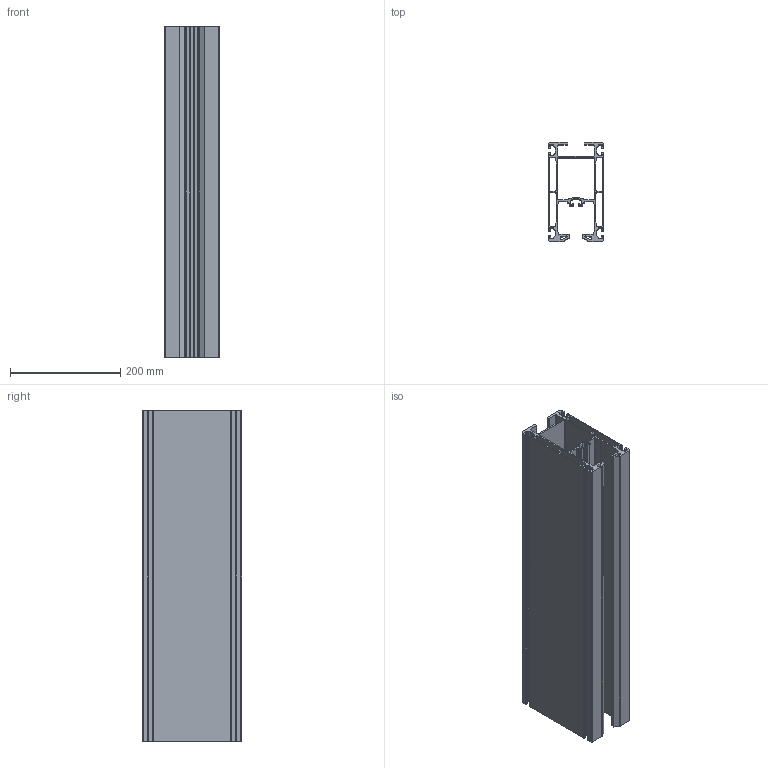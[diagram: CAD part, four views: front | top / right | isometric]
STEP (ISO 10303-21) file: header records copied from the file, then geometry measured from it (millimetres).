
FILE_DESCRIPTION (( 'STEP AP203' ), '1' );
FILE_NAME ('L-180.STEP', '2020-12-12T08:48:21', ( '' ), ( '' ), 'SwSTEP 2.0', 'SolidWorks 2017', '' );
FILE_SCHEMA (( 'CONFIG_CONTROL_DESIGN' ));
Length unit declared in the file: millimetre
Products named in the file (1): L-180
Bounding box: 100 x 180 x 600 mm (x, y, z)
Volume: 1873222.8 mm3; surface area: 1250626.8 mm2
Topology: 1 solids, 1 shells, 318 faces, 948 edges, 632 vertices
Faces by surface type: cylinder 162, plane 156
Entity records: 10881 total; most frequent: DIRECTION 1910, CARTESIAN_POINT 1899, ORIENTED_EDGE 1896, EDGE_CURVE 948, AXIS2_PLACEMENT_3D 643, VERTEX_POINT 632, VECTOR 624, LINE 624
